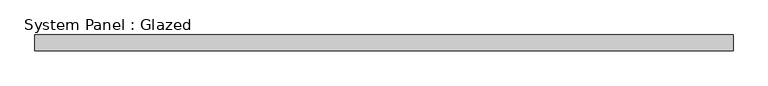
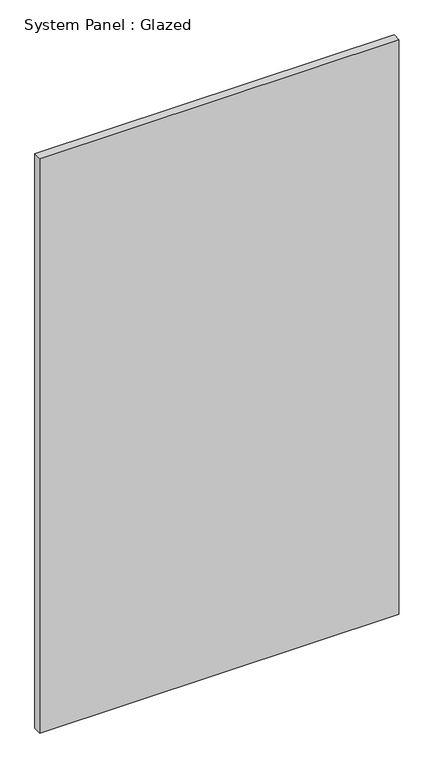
"""IFC4 building model written with IfcOpenShell, lengths in millimetres: plate geometry, System Panel : Glazed."""

from ifc_helpers import new_model, si_unit, origin, origin_with_axes, place, context, project, spatial, polyline, outline, extrude, source, transform, mapped, element, save


def system_panel_glazed_3706a5cf(model_context):
    return source(origin(), model_context, "Body", "SweptSolid", [
        extrude(outline(polyline([(548.4875, -49.5), (-548.4875, -49.5), (-548.4875, -24.5), (548.4875, -24.5), (548.4875, -49.5)])), origin_with_axes(), (0.0, 0.0, 1.0), 1854.4),
    ])


if __name__ == "__main__":
    model = new_model("IFC4")
    model_context = context("Model", 3, world=origin())
    ifc_project = project(units=[si_unit("LENGTHUNIT", "METRE", prefix="MILLI")], contexts=[model_context])
    site = spatial("IfcSite", under=ifc_project)
    building = spatial("IfcBuilding", under=site)
    placement = place(None, origin())
    system_panel_glazed_shape = system_panel_glazed_3706a5cf(model_context)
    element("IfcPlate", 1, ObjectType="System Panel : Glazed", at=placement, inside=building, context=model_context, shape_type="MappedRepresentation", body=[
        mapped(system_panel_glazed_shape, transform((0.0, 0.0, 0.0), x_axis=(1.0, 0.0, 0.0), y_axis=(0.0, 1.0, 0.0), z_axis=(0.0, 0.0, 1.0))),
    ])
    save(model, "model.ifc")
